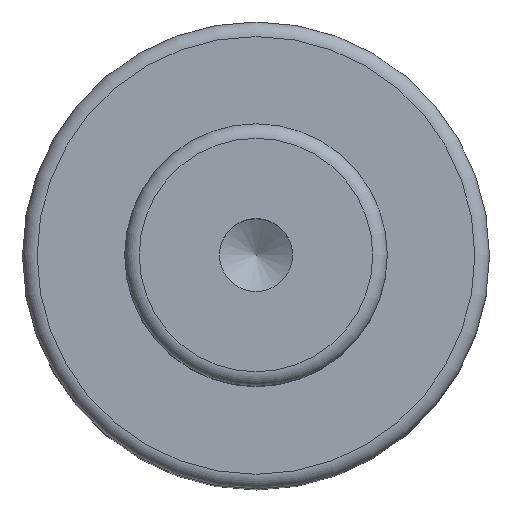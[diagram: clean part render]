
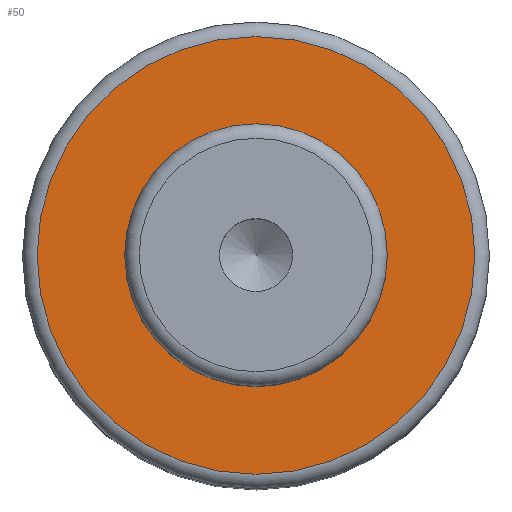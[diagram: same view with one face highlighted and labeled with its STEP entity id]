
A CAD part, top view. The second image highlights one B-rep face of the part: STEP entity #50.
In plain terms, the highlighted planar face has unit normal (0, 0, 1).
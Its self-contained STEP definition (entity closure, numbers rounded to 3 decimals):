
#40=PLANE('',#179);
#50=ADVANCED_FACE('',(#72,#73),#40,.F.);
#72=FACE_BOUND('',#96,.T.);
#73=FACE_BOUND('',#97,.T.);
#96=EDGE_LOOP('',(#118));
#97=EDGE_LOOP('',(#119));
#118=ORIENTED_EDGE('',*,*,#149,.F.);
#119=ORIENTED_EDGE('',*,*,#148,.T.);
#135=VERTEX_POINT('',#256);
#136=VERTEX_POINT('',#259);
#148=EDGE_CURVE('',#135,#135,#159,.T.);
#149=EDGE_CURVE('',#136,#136,#160,.T.);
#159=CIRCLE('',#176,9.);
#160=CIRCLE('',#178,15.);
#176=AXIS2_PLACEMENT_3D('',#255,#213,#214);
#178=AXIS2_PLACEMENT_3D('',#258,#217,#218);
#179=AXIS2_PLACEMENT_3D('',#260,#219,#220);
#213=DIRECTION('',(0.,0.,-1.));
#214=DIRECTION('',(-1.,0.,0.));
#217=DIRECTION('',(0.,0.,-1.));
#218=DIRECTION('',(-1.,0.,0.));
#219=DIRECTION('',(0.,0.,-1.));
#220=DIRECTION('',(-1.,0.,0.));
#255=CARTESIAN_POINT('',(0.,0.,44.));
#256=CARTESIAN_POINT('',(-9.,0.,44.));
#258=CARTESIAN_POINT('',(0.,0.,44.));
#259=CARTESIAN_POINT('',(-15.,0.,44.));
#260=CARTESIAN_POINT('',(9.,0.,44.));
